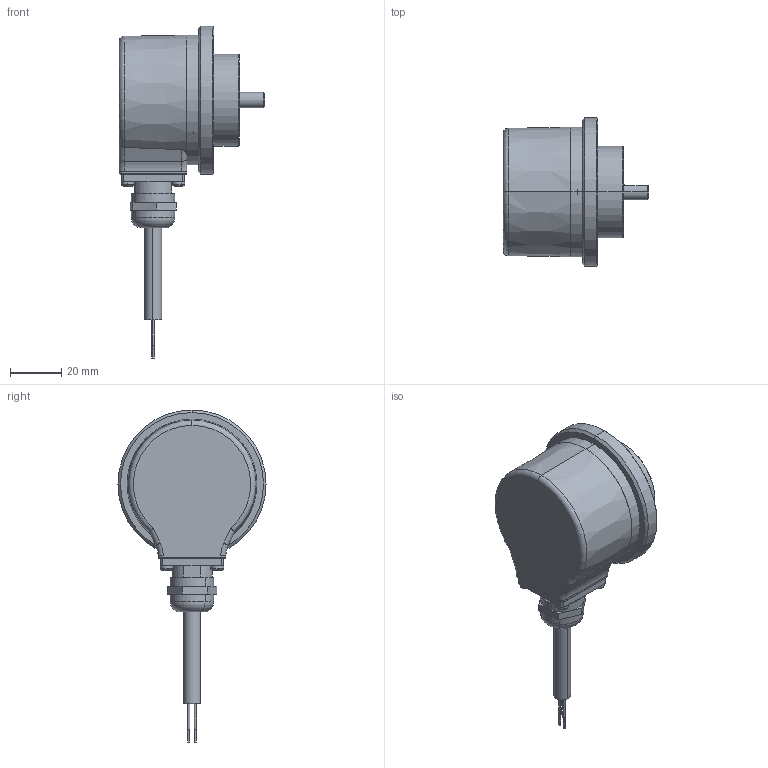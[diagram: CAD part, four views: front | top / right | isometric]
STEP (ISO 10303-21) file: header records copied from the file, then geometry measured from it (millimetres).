
FILE_DESCRIPTION (( 'STEP AP214' ), '1' );
FILE_NAME ('5000.81X2.XXXX.STEP', '2008-12-03T07:09:39', ( 'admin' ), ( 'Fritz Kübler GmbH' ), 'SwSTEP 2.0', 'SolidWorks 2008', '' );
FILE_SCHEMA (( 'AUTOMOTIVE_DESIGN' ));
Length unit declared in the file: millimetre
Products named in the file (1): 5000.81X2.XXXX
Bounding box: 57 x 58 x 130 mm (x, y, z)
Volume: 54271.1 mm3; surface area: 37536.2 mm2
Topology: 12 solids, 13 shells, 537 faces, 1263 edges, 764 vertices
Faces by surface type: plane 176, cylinder 163, cone 91, torus 65, sphere 32, bspline 10
Entity records: 22025 total; most frequent: CARTESIAN_POINT 3721, DIRECTION 2773, ORIENTED_EDGE 2394, EDGE_CURVE 1197, AXIS2_PLACEMENT_3D 1148, VERTEX_POINT 734, EDGE_LOOP 627, CIRCLE 620
